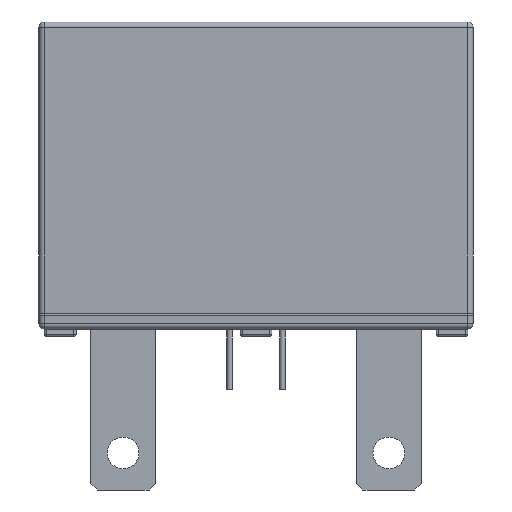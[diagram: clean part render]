
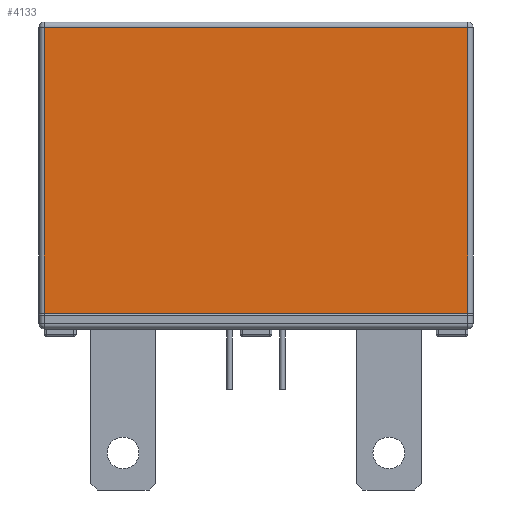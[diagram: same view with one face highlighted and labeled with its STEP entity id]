
A CAD part, front view. The second image highlights one B-rep face of the part: STEP entity #4133.
In plain terms, the highlighted planar face has unit normal (0, -1, 0).
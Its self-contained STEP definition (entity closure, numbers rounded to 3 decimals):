
#91=DIRECTION('',(0.,0.,1.));
#92=VECTOR('',#91,27.);
#93=CARTESIAN_POINT('',(20.,-6.2,1.5));
#94=LINE('',#93,#92);
#98=DIRECTION('',(1.,0.,0.));
#99=VECTOR('',#98,40.);
#100=CARTESIAN_POINT('',(-20.,-6.2,1.5));
#101=LINE('',#100,#99);
#173=DIRECTION('',(1.,0.,0.));
#174=VECTOR('',#173,40.);
#175=CARTESIAN_POINT('',(-20.,-6.2,28.5));
#176=LINE('',#175,#174);
#180=DIRECTION('',(0.,0.,1.));
#181=VECTOR('',#180,27.);
#182=CARTESIAN_POINT('',(-20.,-6.2,1.5));
#183=LINE('',#182,#181);
#3800=CARTESIAN_POINT('',(-20.,-6.2,1.5));
#3801=CARTESIAN_POINT('',(20.,-6.2,1.5));
#3802=VERTEX_POINT('',#3800);
#3803=VERTEX_POINT('',#3801);
#3908=CARTESIAN_POINT('',(20.,-6.2,28.5));
#3910=VERTEX_POINT('',#3908);
#3930=CARTESIAN_POINT('',(-20.,-6.2,28.5));
#3931=VERTEX_POINT('',#3930);
#4121=CARTESIAN_POINT('',(-20.,-6.2,1.5));
#4122=DIRECTION('',(0.,-1.,0.));
#4123=DIRECTION('',(1.,0.,0.));
#4124=AXIS2_PLACEMENT_3D('',#4121,#4122,#4123);
#4125=PLANE('',#4124);
#4126=ORIENTED_EDGE('',*,*,#3986,.T.);
#4127=ORIENTED_EDGE('',*,*,#4014,.F.);
#4128=ORIENTED_EDGE('',*,*,#4024,.F.);
#4130=ORIENTED_EDGE('',*,*,#4129,.T.);
#4131=EDGE_LOOP('',(#4126,#4127,#4128,#4130));
#4132=FACE_OUTER_BOUND('',#4131,.F.);
#4133=ADVANCED_FACE('',(#4132),#4125,.T.);
#3986=EDGE_CURVE('',#3931,#3910,#176,.T.);
#4014=EDGE_CURVE('',#3803,#3910,#94,.T.);
#4024=EDGE_CURVE('',#3802,#3803,#101,.T.);
#4129=EDGE_CURVE('',#3802,#3931,#183,.T.);
